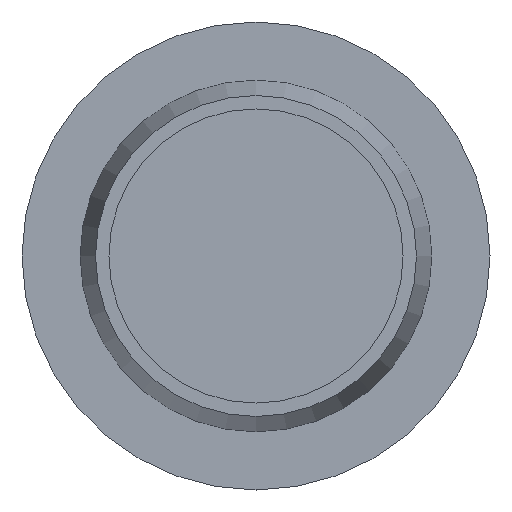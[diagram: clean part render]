
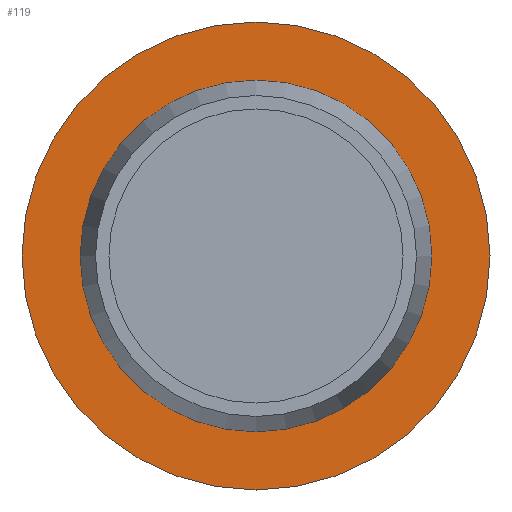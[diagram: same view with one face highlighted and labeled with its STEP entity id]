
A CAD part, front view. The second image highlights one B-rep face of the part: STEP entity #119.
In plain terms, the highlighted planar face has unit normal (0, -1, 0).
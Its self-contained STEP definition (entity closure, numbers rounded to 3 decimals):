
#6 = VERTEX_POINT ( 'NONE', #52 ) ;
#13 = ORIENTED_EDGE ( 'NONE', *, *, #157, .F. ) ;
#27 = DIRECTION ( 'NONE',  ( 0., 1., 0. ) ) ;
#36 = AXIS2_PLACEMENT_3D ( 'NONE', #125, #123, #179 ) ;
#43 = VERTEX_POINT ( 'NONE', #138 ) ;
#46 = FACE_OUTER_BOUND ( 'NONE', #168, .T. ) ;
#52 = CARTESIAN_POINT ( 'NONE',  ( -6.575, 0., 0. ) ) ;
#72 = EDGE_LOOP ( 'NONE', ( #153 ) ) ;
#75 = AXIS2_PLACEMENT_3D ( 'NONE', #87, #27, #97 ) ;
#87 = CARTESIAN_POINT ( 'NONE',  ( 0., 0., 0. ) ) ;
#89 = CIRCLE ( 'NONE', #75, 8.75 ) ;
#97 = DIRECTION ( 'NONE',  ( -1., 0., 0. ) ) ;
#107 = PLANE ( 'NONE',  #134 ) ;
#108 = DIRECTION ( 'NONE',  ( 1., 0., 0. ) ) ;
#116 = CIRCLE ( 'NONE', #36, 6.575 ) ;
#119 = ADVANCED_FACE ( 'NONE', ( #177, #46 ), #107, .T. ) ;
#120 = DIRECTION ( 'NONE',  ( 0., -1., 0. ) ) ;
#123 = DIRECTION ( 'NONE',  ( 0., 1., 0. ) ) ;
#125 = CARTESIAN_POINT ( 'NONE',  ( 0., 0., 0. ) ) ;
#134 = AXIS2_PLACEMENT_3D ( 'NONE', #161, #120, #108 ) ;
#138 = CARTESIAN_POINT ( 'NONE',  ( -8.75, 0., 0. ) ) ;
#153 = ORIENTED_EDGE ( 'NONE', *, *, #185, .T. ) ;
#157 = EDGE_CURVE ( 'NONE', #43, #43, #89, .T. ) ;
#161 = CARTESIAN_POINT ( 'NONE',  ( -6.575, 0., 0. ) ) ;
#168 = EDGE_LOOP ( 'NONE', ( #13 ) ) ;
#177 = FACE_BOUND ( 'NONE', #72, .T. ) ;
#179 = DIRECTION ( 'NONE',  ( -1., 0., 0. ) ) ;
#185 = EDGE_CURVE ( 'NONE', #6, #6, #116, .T. ) ;
